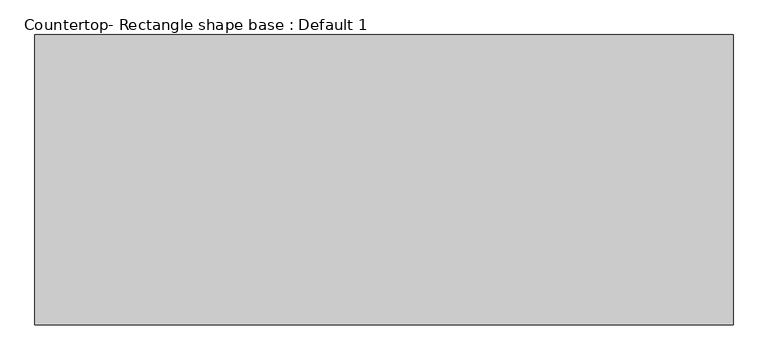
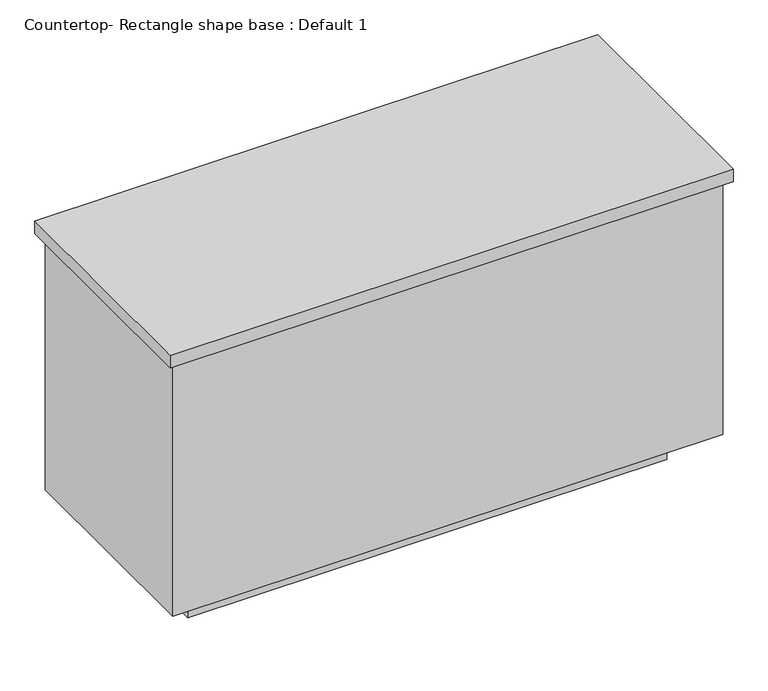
"""IFC4 building model written with IfcOpenShell, lengths in millimetres: proxy geometry, Countertop- Rectangle shape base : Default 1."""

import ifcopenshell
import ifcopenshell.guid

model = None  # the IFC model being written
_history = None  # IfcOwnerHistory: only IFC2X3 demands one
_inside = {}  # id of a spatial element -> (the spatial element, [elements in it])
_under = {}  # id of a project, library or spatial element -> (it, [spatial elements below it])
_declared = {}  # id of a project -> (the project, [libraries it declares])
_typed = {}  # id of a type object -> (the type object, [elements of that type])
_made_of = {}  # id of a material, layer set ... -> (it, [elements and type objects made of it])


def new_model(schema):
    """Start an empty IFC model of exactly this schema.

    Asked for "IFC4X3", IfcOpenShell would pick the latest addendum, in which some entities
    have other attributes; the version numbers below select the first issue.
    IFC2X3 requires an IfcOwnerHistory on every rooted entity: one is made here for all.
    """
    global model, _history
    if schema == "IFC4X3":
        model = ifcopenshell.file(schema_version=(4, 3, 0, 0))
    else:
        model = ifcopenshell.file(schema=schema)
    _inside.clear()
    _under.clear()
    _declared.clear()
    _typed.clear()
    _made_of.clear()
    _history = None
    if model.schema == "IFC2X3":
        org = make("IfcOrganization", Name="unknown")
        user = make(
            "IfcPersonAndOrganization",
            ThePerson=make("IfcPerson", FamilyName="unknown"),
            TheOrganization=org,
        )
        app = make(
            "IfcApplication",
            ApplicationDeveloper=org,
            Version="unknown",
            ApplicationFullName="unknown",
            ApplicationIdentifier="unknown",
        )
        _history = make(
            "IfcOwnerHistory",
            OwningUser=user,
            OwningApplication=app,
            ChangeAction="ADDED",
            CreationDate=0,
        )
    return model


def make(cls, **values):
    """One entity of the class cls with the attributes given. An attribute that is None is left unset."""
    return model.create_entity(
        cls, **{name: value for name, value in values.items() if value is not None}
    )


def rooted(cls, **values):
    """An entity with a GlobalId (a new one), such as an element, a storey or a relation."""
    return make(cls, GlobalId=ifcopenshell.guid.new(), OwnerHistory=_history, **values)


def si_unit(unit_type, name, prefix=None):
    """IfcSIUnit, for example si_unit("LENGTHUNIT", "METRE", prefix="MILLI")."""
    return make("IfcSIUnit", UnitType=unit_type, Prefix=prefix, Name=name)


def assignment(units):
    """IfcUnitAssignment: the units of a project."""
    return None if units is None else make("IfcUnitAssignment", Units=units)


def point(xyz):
    """IfcCartesianPoint."""
    return None if xyz is None else make("IfcCartesianPoint", Coordinates=xyz)


def direction(xyz):
    """IfcDirection."""
    return None if xyz is None else make("IfcDirection", DirectionRatios=xyz)


def frame(location, z_axis=None, x_axis=None):
    """IfcAxis2Placement3D, a coordinate frame: its origin and axes. An axis left out is left unset."""
    return make(
        "IfcAxis2Placement3D",
        Location=point(location),
        Axis=direction(z_axis),
        RefDirection=direction(x_axis),
    )


def origin():
    """The frame at (0, 0, 0) with its axes left unset."""
    return frame((0.0, 0.0, 0.0))


def origin_with_axes():
    """The frame at (0, 0, 0) with the z axis (0, 0, 1) and the x axis (1, 0, 0) written out."""
    return frame((0.0, 0.0, 0.0), z_axis=(0.0, 0.0, 1.0), x_axis=(1.0, 0.0, 0.0))


def place(relative_to, where):
    """IfcLocalPlacement: puts the frame where relative to a parent placement (None: the world)."""
    return make(
        "IfcLocalPlacement", PlacementRelTo=relative_to, RelativePlacement=where
    )


def context(
    kind, dimensions, precision=None, world=None, true_north=None, identifier=None
):
    """IfcGeometricRepresentationContext, for example the 3D "Model" context."""
    return make(
        "IfcGeometricRepresentationContext",
        ContextIdentifier=identifier,
        ContextType=kind,
        CoordinateSpaceDimension=dimensions,
        Precision=precision,
        WorldCoordinateSystem=world,
        TrueNorth=true_north,
    )


def project(units=None, contexts=None):
    """IfcProject with its units and contexts."""
    return rooted(
        "IfcProject",
        Name="project",
        RepresentationContexts=contexts,
        UnitsInContext=assignment(units),
    )


def spatial(cls, under=None, at=None, **own):
    """A site, building, storey or space (cls), placed at a placement, below another one or the project."""
    s = rooted(cls, ObjectPlacement=at, **own)
    if under is not None:
        _under.setdefault(under.id(), (under, []))[1].append(s)
    return s


def polyline(points):
    """IfcPolyline through the points."""
    return make("IfcPolyline", Points=[point(p) for p in points])


def outline(outer, holes=None, kind="AREA"):
    """IfcArbitraryClosedProfileDef: a profile drawn as a closed curve; with holes, ...WithVoids."""
    if holes is None:
        return make("IfcArbitraryClosedProfileDef", ProfileType=kind, OuterCurve=outer)
    return make(
        "IfcArbitraryProfileDefWithVoids",
        ProfileType=kind,
        OuterCurve=outer,
        InnerCurves=holes,
    )


def extrude(swept, where, along, depth):
    """IfcExtrudedAreaSolid: the profile swept, set in the frame where, extruded along a direction by depth."""
    return make(
        "IfcExtrudedAreaSolid",
        SweptArea=swept,
        Position=where,
        ExtrudedDirection=direction(along),
        Depth=depth,
    )


def shape(context_of_items, identifier, shape_type, items):
    """IfcShapeRepresentation: the items that make up one representation, for example the "Body"."""
    return make(
        "IfcShapeRepresentation",
        ContextOfItems=context_of_items,
        RepresentationIdentifier=identifier,
        RepresentationType=shape_type,
        Items=items,
    )


def source(mapping_origin, context_of_items, identifier, shape_type, items):
    """IfcRepresentationMap: a shape defined once, which mapped items show again and again."""
    return make(
        "IfcRepresentationMap",
        MappingOrigin=mapping_origin,
        MappedRepresentation=shape(context_of_items, identifier, shape_type, items),
    )


def transform(
    local_origin,
    x_axis=None,
    y_axis=None,
    z_axis=None,
    scale=None,
    scale2=None,
    scale3=None,
    uniform=True,
):
    """IfcCartesianTransformationOperator3D, or its non-uniform kind. x_axis, y_axis, z_axis: its Axis1, 2, 3."""
    if uniform:
        return make(
            "IfcCartesianTransformationOperator3D",
            Axis1=direction(x_axis),
            Axis2=direction(y_axis),
            LocalOrigin=point(local_origin),
            Scale=scale,
            Axis3=direction(z_axis),
        )
    return make(
        "IfcCartesianTransformationOperator3DnonUniform",
        Axis1=direction(x_axis),
        Axis2=direction(y_axis),
        LocalOrigin=point(local_origin),
        Scale=scale,
        Axis3=direction(z_axis),
        Scale2=scale2,
        Scale3=scale3,
    )


def mapped(mapping_source, mapping_target):
    """IfcMappedItem: shows the shape of a source again, moved by a transform."""
    return make(
        "IfcMappedItem", MappingSource=mapping_source, MappingTarget=mapping_target
    )


def made_of(thing, what):
    """Note that an element or type object is made of a material, layer set ...; save() writes the relation."""
    if what is not None:
        _made_of.setdefault(what.id(), (what, []))[1].append(thing)
    return thing


def element(
    cls,
    number,
    at=None,
    inside=None,
    cuts=None,
    type_object=None,
    material=None,
    context=None,
    identifier="Body",
    shape_type=None,
    held_by="IfcProductDefinitionShape",
    body=None,
    shapes=None,
    **own,
):
    """One element of the class cls, such as IfcWall. Its Tag is "e" and its number.

    at: its placement. inside: the storey or other place that contains it. cuts: it is an
    opening in that element (IfcRelVoidsElement). A single representation is given by context,
    identifier, shape_type and body (its items); several are given by shapes. held_by: the class
    of the entity that holds the representations. save() writes the other relations.
    """
    e = rooted(cls, Tag="e%d" % number, ObjectPlacement=at, **own)
    if body is not None:
        shapes = [shape(context, identifier, shape_type, body)]
    if shapes is not None:
        e.Representation = make(held_by, Representations=shapes)
    if inside is not None:
        _inside.setdefault(inside.id(), (inside, []))[1].append(e)
    if cuts is not None:
        rooted(
            "IfcRelVoidsElement", RelatingBuildingElement=cuts, RelatedOpeningElement=e
        )
    if type_object is not None:
        _typed.setdefault(type_object.id(), (type_object, []))[1].append(e)
    return made_of(e, material)


def aggregate(whole, parts):
    """IfcRelAggregates: a whole, such as a stair, and the parts it consists of."""
    return rooted("IfcRelAggregates", RelatingObject=whole, RelatedObjects=parts)


def save(model, path):
    """Write the relations noted so far, then the file.

    IfcRelAggregates (storeys below a building ...), IfcRelContainedInSpatialStructure (elements
    in a storey), IfcRelDefinesByType, IfcRelAssociatesMaterial and IfcRelDeclares: one each for
    every whole, place, type object, material and project.
    """
    for whole, parts in _under.values():
        aggregate(whole, parts)
    for where, things in _inside.values():
        rooted(
            "IfcRelContainedInSpatialStructure",
            RelatedElements=things,
            RelatingStructure=where,
        )
    for kind, things in _typed.values():
        rooted("IfcRelDefinesByType", RelatedObjects=things, RelatingType=kind)
    for what, things in _made_of.values():
        rooted("IfcRelAssociatesMaterial", RelatedObjects=things, RelatingMaterial=what)
    for by, libraries in _declared.values():
        rooted("IfcRelDeclares", RelatingContext=by, RelatedDefinitions=libraries)
    model.write(path)


def countertop_rectangle_shape_base_default_1_f1c427c6(model_context):
    return source(origin(), model_context, "Body", "SweptSolid", [
        extrude(outline(polyline([(-47.625, 44.45), (-47.625, 717.55), (1571.625, 717.55), (1571.625, 44.45), (-47.625, 44.45)])), frame((0.0, 0.0, 876.3), z_axis=(0.0, 0.0, 1.0), x_axis=(1.0, 0.0, 0.0)), (0.0, 0.0, 1.0), 38.1),
        extrude(outline(polyline([(1552.575, 698.5), (1552.575, 63.5), (-28.575, 63.5), (-28.575, 698.5), (1552.575, 698.5)])), frame((0.0, 0.0, 101.6), z_axis=(0.0, 0.0, 1.0), x_axis=(1.0, 0.0, 0.0)), (0.0, 0.0, 1.0), 774.7),
        extrude(outline(polyline([(1450.975, 596.9), (1450.975, 165.1), (73.025, 165.1), (73.025, 596.9), (1450.975, 596.9)])), origin_with_axes(), (0.0, 0.0, 1.0), 101.6),
    ])


if __name__ == "__main__":
    model = new_model("IFC4")
    model_context = context("Model", 3, world=origin())
    ifc_project = project(units=[si_unit("LENGTHUNIT", "METRE", prefix="MILLI")], contexts=[model_context])
    site = spatial("IfcSite", under=ifc_project)
    building = spatial("IfcBuilding", under=site)
    placement = place(None, origin())
    countertop_rectangle_shape_base_default_1_shape = countertop_rectangle_shape_base_default_1_f1c427c6(model_context)
    element("IfcBuildingElementProxy", 1, Name="Countertop- Rectangle shape base : Default 1", ObjectType="Countertop- Rectangle shape base : Default 1", at=placement, inside=building, context=model_context, shape_type="MappedRepresentation", body=[
        mapped(countertop_rectangle_shape_base_default_1_shape, transform((0.0, 0.0, 0.0), x_axis=(1.0, 0.0, 0.0), y_axis=(0.0, 1.0, 0.0), z_axis=(0.0, 0.0, 1.0))),
    ])
    save(model, "model.ifc")
